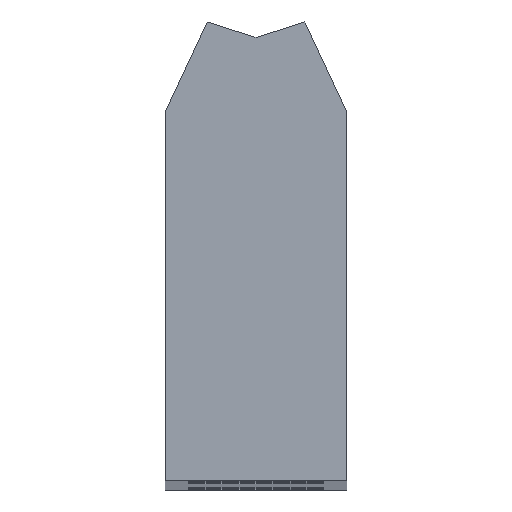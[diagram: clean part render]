
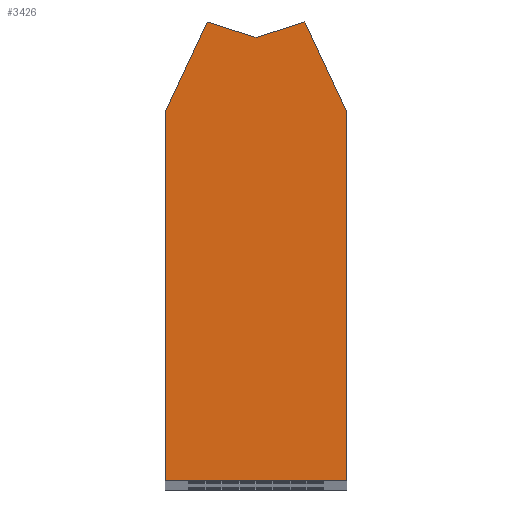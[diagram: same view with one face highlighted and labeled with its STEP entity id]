
A CAD part, top view. The second image highlights one B-rep face of the part: STEP entity #3426.
In plain terms, the highlighted planar face has unit normal (0, 0, 1).
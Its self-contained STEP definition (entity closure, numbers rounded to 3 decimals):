
#105 = VECTOR ( 'NONE', #1045, 1000. ) ;
#144 = VERTEX_POINT ( 'NONE', #3433 ) ;
#222 = CARTESIAN_POINT ( 'NONE',  ( 0., 48.893, 299.75 ) ) ;
#248 = ORIENTED_EDGE ( 'NONE', *, *, #1121, .T. ) ;
#490 = DIRECTION ( 'NONE',  ( -0.954, -0.301, 0. ) ) ;
#492 = DIRECTION ( 'NONE',  ( 1., 0., 0. ) ) ;
#505 = DIRECTION ( 'NONE',  ( 0., -1., 0. ) ) ;
#542 = VECTOR ( 'NONE', #492, 1000. ) ;
#799 = CARTESIAN_POINT ( 'NONE',  ( 5.4, 50.596, 299.75 ) ) ;
#832 = DIRECTION ( 'NONE',  ( 0., 1., 0. ) ) ;
#928 = ORIENTED_EDGE ( 'NONE', *, *, #4038, .T. ) ;
#985 = AXIS2_PLACEMENT_3D ( 'NONE', #1951, #1594, #2879 ) ;
#1045 = DIRECTION ( 'NONE',  ( -0.423, -0.906, 0. ) ) ;
#1093 = EDGE_LOOP ( 'NONE', ( #3282, #2059, #1421, #2420, #248, #928, #3035 ) ) ;
#1121 = EDGE_CURVE ( 'NONE', #2343, #144, #2400, .T. ) ;
#1149 = CARTESIAN_POINT ( 'NONE',  ( 10., 0., 299.75 ) ) ;
#1237 = VECTOR ( 'NONE', #3372, 1000. ) ;
#1277 = CARTESIAN_POINT ( 'NONE',  ( -5.4, 50.596, 299.75 ) ) ;
#1421 = ORIENTED_EDGE ( 'NONE', *, *, #1473, .T. ) ;
#1473 = EDGE_CURVE ( 'NONE', #4149, #1923, #2038, .T. ) ;
#1594 = DIRECTION ( 'NONE',  ( 0., 0., 1. ) ) ;
#1699 = CARTESIAN_POINT ( 'NONE',  ( 0., 48.893, 299.75 ) ) ;
#1726 = CARTESIAN_POINT ( 'NONE',  ( -10., 0., 299.75 ) ) ;
#1731 = VECTOR ( 'NONE', #490, 1000. ) ;
#1745 = CARTESIAN_POINT ( 'NONE',  ( 10., 0., 299.75 ) ) ;
#1923 = VERTEX_POINT ( 'NONE', #3628 ) ;
#1951 = CARTESIAN_POINT ( 'NONE',  ( 0., 0., 299.75 ) ) ;
#2004 = LINE ( 'NONE', #1726, #542 ) ;
#2038 = LINE ( 'NONE', #2352, #3272 ) ;
#2059 = ORIENTED_EDGE ( 'NONE', *, *, #3108, .T. ) ;
#2089 = LINE ( 'NONE', #222, #1237 ) ;
#2153 = EDGE_CURVE ( 'NONE', #2575, #2658, #2309, .T. ) ;
#2275 = LINE ( 'NONE', #2689, #2643 ) ;
#2291 = PLANE ( 'NONE',  #985 ) ;
#2299 = EDGE_CURVE ( 'NONE', #1923, #2343, #2004, .T. ) ;
#2309 = LINE ( 'NONE', #799, #1731 ) ;
#2343 = VERTEX_POINT ( 'NONE', #1745 ) ;
#2352 = CARTESIAN_POINT ( 'NONE',  ( -10., 40.731, 299.75 ) ) ;
#2400 = LINE ( 'NONE', #1149, #3484 ) ;
#2420 = ORIENTED_EDGE ( 'NONE', *, *, #2299, .T. ) ;
#2481 = CARTESIAN_POINT ( 'NONE',  ( -10., 40.731, 299.75 ) ) ;
#2575 = VERTEX_POINT ( 'NONE', #3523 ) ;
#2580 = FACE_OUTER_BOUND ( 'NONE', #1093, .T. ) ;
#2582 = VERTEX_POINT ( 'NONE', #1277 ) ;
#2643 = VECTOR ( 'NONE', #3227, 1000. ) ;
#2658 = VERTEX_POINT ( 'NONE', #1699 ) ;
#2689 = CARTESIAN_POINT ( 'NONE',  ( 10., 40.731, 299.75 ) ) ;
#2879 = DIRECTION ( 'NONE',  ( 1., 0., 0. ) ) ;
#3016 = CARTESIAN_POINT ( 'NONE',  ( -5.4, 50.596, 299.75 ) ) ;
#3035 = ORIENTED_EDGE ( 'NONE', *, *, #2153, .T. ) ;
#3108 = EDGE_CURVE ( 'NONE', #2582, #4149, #3291, .T. ) ;
#3227 = DIRECTION ( 'NONE',  ( -0.423, 0.906, 0. ) ) ;
#3272 = VECTOR ( 'NONE', #505, 1000. ) ;
#3282 = ORIENTED_EDGE ( 'NONE', *, *, #3338, .T. ) ;
#3291 = LINE ( 'NONE', #3016, #105 ) ;
#3338 = EDGE_CURVE ( 'NONE', #2658, #2582, #2089, .T. ) ;
#3372 = DIRECTION ( 'NONE',  ( -0.954, 0.301, 0. ) ) ;
#3426 = ADVANCED_FACE ( 'NONE', ( #2580 ), #2291, .T. ) ;
#3433 = CARTESIAN_POINT ( 'NONE',  ( 10., 40.731, 299.75 ) ) ;
#3484 = VECTOR ( 'NONE', #832, 1000. ) ;
#3523 = CARTESIAN_POINT ( 'NONE',  ( 5.4, 50.596, 299.75 ) ) ;
#3628 = CARTESIAN_POINT ( 'NONE',  ( -10., 0., 299.75 ) ) ;
#4038 = EDGE_CURVE ( 'NONE', #144, #2575, #2275, .T. ) ;
#4149 = VERTEX_POINT ( 'NONE', #2481 ) ;
